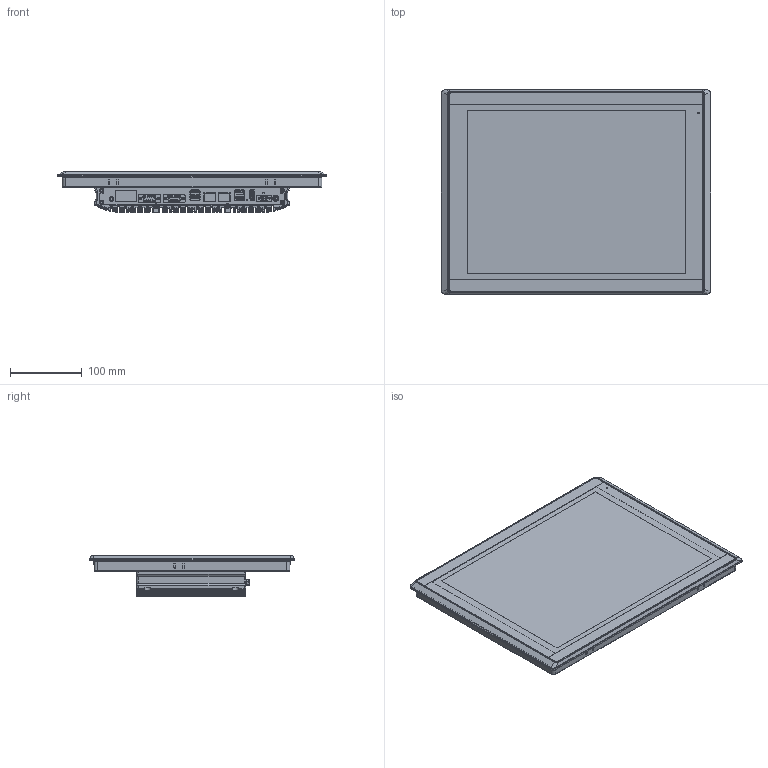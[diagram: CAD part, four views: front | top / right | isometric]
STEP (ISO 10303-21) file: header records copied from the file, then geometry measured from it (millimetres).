
FILE_DESCRIPTION((''),'2;1');
FILE_NAME('FPM-1500-20250228','2025-08-02T22:57:47',('anthony'),(''),'CREO PARAMETRIC BY PTC INC, 2024063','CREO PARAMETRIC BY PTC INC, 2024063','');
FILE_SCHEMA(('CONFIG_CONTROL_DESIGN','SHAPE_APPEARANCE_LAYERS_GROUPS'));
Products named in the file (1): FPM-1500-20250228
Bounding box: 376.13 x 285.33 x 57.88 mm (x, y, z)
Volume: 2234820.9 mm3; surface area: 759316.8 mm2
Topology: 19 solids, 70 shells, 6282 faces, 20089 edges, 13835 vertices
Faces by surface type: plane 3580, cylinder 2342, cone 157, torus 100, bspline 75, extrusion 24, revolution 4
Entity records: 276548 total; most frequent: CARTESIAN_POINT 53944, ORIENTED_EDGE 39247, DIRECTION 35992, EDGE_CURVE 20054, VERTEX_POINT 13836, PRESENTATION_STYLE_ASSIGNMENT 13582, STYLED_ITEM 13215, CURVE_STYLE 12945
